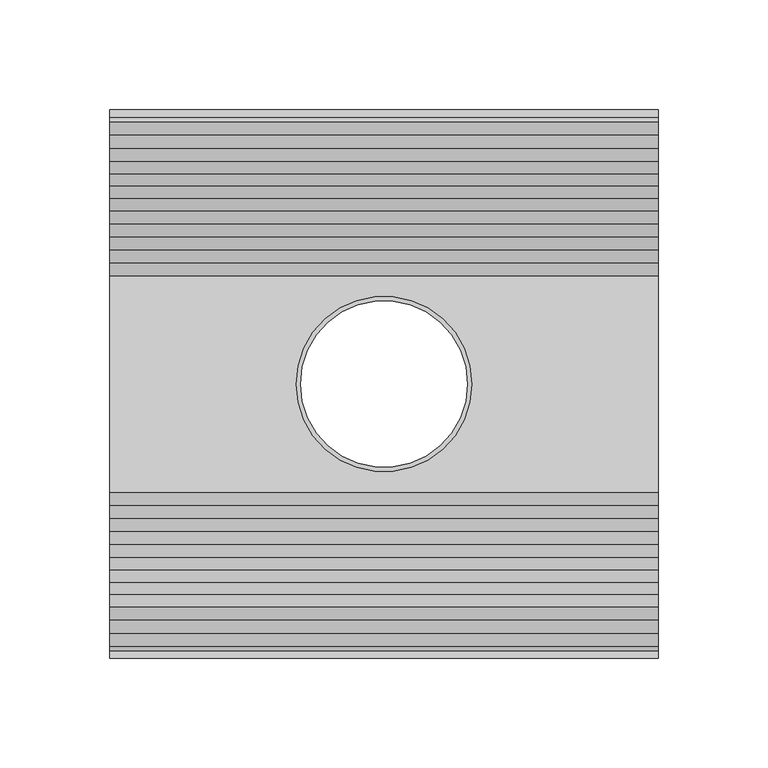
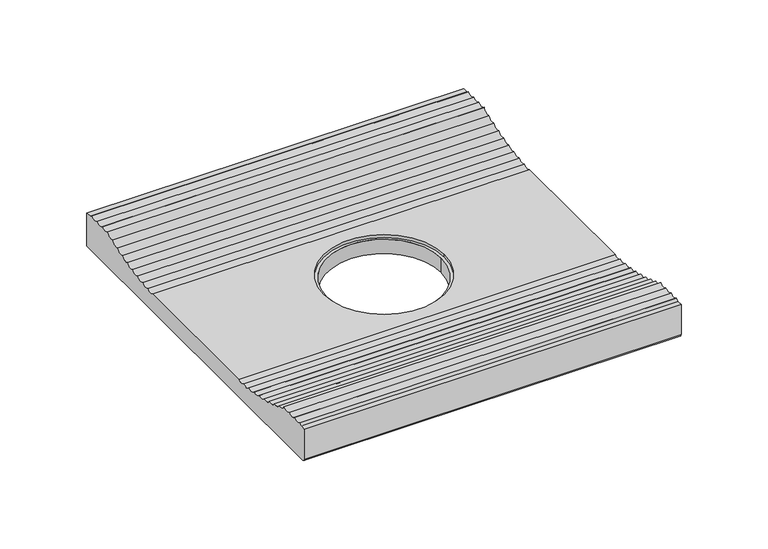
"""IFC4 building model written with IfcOpenShell, lengths in millimetres: proxy geometry, ROSA GRES_205 : Pieza 205_Aqua_Indubeige_Tecno."""

from ifc_helpers import new_model, si_unit, frame, origin, place, context, project, spatial, polyline, circle_curve, source, transform, mapped, element, save
from ifc_brep_helpers import plane_surface, cylinder_surface, revolved_surface, advanced_brep


def generic_models_5c6e7721(model_context):
    return source(origin(), model_context, "Body", "AdvancedBrep", [
        advanced_brep(
        [(250.0, 0.0, 22.8672484), (250.0, 0.0, 1.8), (250.0, 1.8, 0.0), (250.0, 250.0, 0.0), (250.0, 250.0, 22.8672484), (250.0, 246.5165615, 22.8672484), (250.0, 244.6066559, 24.1254722), (250.0, 238.5231465, 24.0443215), (250.0, 232.5161808, 24.0385354), (250.0, 226.4518445, 24.1126825), (250.0, 220.9070916, 21.702672), (250.0, 215.3259087, 19.6629784), (250.0, 209.593873, 17.7784107), (250.0, 203.853023, 16.2504407), (250.0, 197.9613895, 14.9241491), (250.0, 192.1240285, 13.8344915), (250.0, 186.1425933, 12.9927609), (250.0, 180.2419212, 12.3552884), (250.0, 174.3413989, 11.9299493), (250.0, 75.6586011, 11.9299493), (250.0, 69.7580788, 12.3552884), (250.0, 63.8574067, 12.9927609), (250.0, 57.8759715, 13.8344915), (250.0, 52.0386105, 14.9241491), (250.0, 46.146977, 16.2504407), (250.0, 40.406127, 17.7784107), (250.0, 34.6740913, 19.6629784), (250.0, 29.0929084, 21.702672), (250.0, 23.5481555, 24.1126825), (250.0, 17.4838192, 24.0385354), (250.0, 11.4768535, 24.0443215), (250.0, 5.3933441, 24.1254722), (250.0, 3.4834385, 22.8672484), (0.0, 0.0, 22.8672484), (0.0, 3.4834385, 22.8672484), (0.0, 5.3933441, 24.1254722), (0.0, 11.4768535, 24.0443215), (0.0, 17.4838192, 24.0385354), (0.0, 23.5481555, 24.1126825), (0.0, 29.0929084, 21.702672), (0.0, 34.6740913, 19.6629784), (0.0, 40.406127, 17.7784107), (0.0, 46.146977, 16.2504407), (0.0, 52.0386105, 14.9241491), (0.0, 57.8759715, 13.8344915), (0.0, 63.8574067, 12.9927609), (0.0, 69.7580788, 12.3552884), (0.0, 75.6586011, 11.9299493), (0.0, 174.3413989, 11.9299493), (0.0, 180.2419212, 12.3552884), (0.0, 186.1425933, 12.9927609), (0.0, 192.1240285, 13.8344915), (0.0, 197.9613895, 14.9241491), (0.0, 203.853023, 16.2504407), (0.0, 209.593873, 17.7784107), (0.0, 215.3259087, 19.6629784), (0.0, 220.9070916, 21.702672), (0.0, 226.4518445, 24.1126825), (0.0, 232.5161808, 24.0385354), (0.0, 238.5231465, 24.0443215), (0.0, 244.6066559, 24.1254722), (0.0, 246.5165615, 22.8672484), (0.0, 250.0, 22.8672484), (0.0, 250.0, 0.0), (0.0, 1.8, 0.0), (0.0, 0.0, 1.8), (163.0, 125.0, 9.9299493), (163.0, 125.0, 0.0), (87.0, 125.0, 0.0), (87.0, 125.0, 9.9299493), (85.0, 125.0, 9.9299493), (165.0, 125.0, 9.9299493), (85.0, 125.0, 11.9299493), (165.0, 125.0, 11.9299493)],
        [
            (0, 1),
            (1, 2, circle_curve(frame((250.0, 1.8, 1.8), z_axis=(1.0, 0.0, 0.0), x_axis=(0.0, -1.0, 0.0)), 1.8)),
            (2, 3),
            (3, 4),
            (4, 5),
            (5, 6, circle_curve(frame((250.0, 246.5165615, 24.9459193), z_axis=(-1.0, 0.0, 0.0), x_axis=(0.0, 1.0, 0.0)), 2.078671)),
            (6, 7, circle_curve(frame((250.0, 241.5227559, 27.2443435), z_axis=(-1.0, 0.0, 0.0), x_axis=(0.0, 1.0, 0.0)), 4.3860914)),
            (7, 8, circle_curve(frame((250.0, 235.5165615, 27.2619892), z_axis=(-1.0, 0.0, 0.0), x_axis=(0.0, 1.0, 0.0)), 4.4037415)),
            (8, 9, circle_curve(frame((250.0, 229.5227559, 27.2443435), z_axis=(-1.0, 0.0, 0.0), x_axis=(0.0, 1.0, 0.0)), 4.3860914)),
            (9, 10, circle_curve(frame((250.0, 222.4126485, 25.8222711), z_axis=(-1.0, 0.0, 0.0), x_axis=(0.0, 1.0, 0.0)), 4.3860914)),
            (10, 11, circle_curve(frame((250.0, 217.0089888, 23.7132919), z_axis=(-1.0, 0.0, 0.0), x_axis=(0.0, 1.0, 0.0)), 4.3860914)),
            (11, 12, circle_curve(frame((250.0, 211.4655295, 21.7451095), z_axis=(-1.0, 0.0, 0.0), x_axis=(0.0, 1.0, 0.0)), 4.3860914)),
            (12, 13, circle_curve(frame((250.0, 205.8934032, 20.1330489), z_axis=(-1.0, 0.0, 0.0), x_axis=(0.0, 1.0, 0.0)), 4.3860914)),
            (13, 14, circle_curve(frame((250.0, 200.2085503, 18.690854), z_axis=(-1.0, 0.0, 0.0), x_axis=(0.0, 1.0, 0.0)), 4.3860914)),
            (14, 15, circle_curve(frame((250.0, 194.4503067, 17.5528551), z_axis=(-1.0, 0.0, 0.0), x_axis=(0.0, 1.0, 0.0)), 4.3860914)),
            (15, 16, circle_curve(frame((250.0, 188.6900903, 16.563203), z_axis=(-1.0, 0.0, 0.0), x_axis=(0.0, 1.0, 0.0)), 4.3860914)),
            (16, 17, circle_curve(frame((250.0, 182.8453461, 15.8851576), z_axis=(-1.0, 0.0, 0.0), x_axis=(0.0, 1.0, 0.0)), 4.3860914)),
            (17, 18, circle_curve(frame((250.0, 177.0588098, 15.372837), z_axis=(-1.0, 0.0, 0.0), x_axis=(0.0, 1.0, 0.0)), 4.3860914)),
            (18, 19),
            (19, 20, circle_curve(frame((250.0, 72.9411902, 15.372837), z_axis=(-1.0, 0.0, 0.0), x_axis=(0.0, 1.0, 0.0)), 4.3860914)),
            (20, 21, circle_curve(frame((250.0, 67.1546539, 15.8851576), z_axis=(-1.0, 0.0, 0.0), x_axis=(0.0, 1.0, 0.0)), 4.3860914)),
            (21, 22, circle_curve(frame((250.0, 61.3099097, 16.563203), z_axis=(-1.0, 0.0, 0.0), x_axis=(0.0, 1.0, 0.0)), 4.3860914)),
            (22, 23, circle_curve(frame((250.0, 55.5496933, 17.5528551), z_axis=(-1.0, 0.0, 0.0), x_axis=(0.0, 1.0, 0.0)), 4.3860914)),
            (23, 24, circle_curve(frame((250.0, 49.7914497, 18.690854), z_axis=(-1.0, 0.0, 0.0), x_axis=(0.0, 1.0, 0.0)), 4.3860914)),
            (24, 25, circle_curve(frame((250.0, 44.1065968, 20.1330489), z_axis=(-1.0, 0.0, 0.0), x_axis=(0.0, 1.0, 0.0)), 4.3860914)),
            (25, 26, circle_curve(frame((250.0, 38.5344705, 21.7451095), z_axis=(-1.0, 0.0, 0.0), x_axis=(0.0, 1.0, 0.0)), 4.3860914)),
            (26, 27, circle_curve(frame((250.0, 32.9910112, 23.7132919), z_axis=(-1.0, 0.0, 0.0), x_axis=(0.0, 1.0, 0.0)), 4.3860914)),
            (27, 28, circle_curve(frame((250.0, 27.5873515, 25.8222711), z_axis=(-1.0, 0.0, 0.0), x_axis=(0.0, 1.0, 0.0)), 4.3860914)),
            (28, 29, circle_curve(frame((250.0, 20.4772441, 27.2443435), z_axis=(-1.0, 0.0, 0.0), x_axis=(0.0, 1.0, 0.0)), 4.3860914)),
            (29, 30, circle_curve(frame((250.0, 14.4834385, 27.2619892), z_axis=(-1.0, 0.0, 0.0), x_axis=(0.0, 1.0, 0.0)), 4.4037415)),
            (30, 31, circle_curve(frame((250.0, 8.4772441, 27.2443435), z_axis=(-1.0, 0.0, 0.0), x_axis=(0.0, 1.0, 0.0)), 4.3860914)),
            (31, 32, circle_curve(frame((250.0, 3.4834385, 24.9459193), z_axis=(-1.0, 0.0, 0.0), x_axis=(0.0, 1.0, 0.0)), 2.078671)),
            (32, 0),
            (33, 34),
            (34, 35, circle_curve(frame((0.0, 3.4834385, 24.9459193), z_axis=(1.0, 0.0, 0.0), x_axis=(0.0, 1.0, 0.0)), 2.078671)),
            (35, 36, circle_curve(frame((0.0, 8.4772441, 27.2443435), z_axis=(1.0, 0.0, 0.0), x_axis=(0.0, 1.0, 0.0)), 4.3860914)),
            (36, 37, circle_curve(frame((0.0, 14.4834385, 27.2619892), z_axis=(1.0, 0.0, 0.0), x_axis=(0.0, 1.0, 0.0)), 4.4037415)),
            (37, 38, circle_curve(frame((0.0, 20.4772441, 27.2443435), z_axis=(1.0, 0.0, 0.0), x_axis=(0.0, 1.0, 0.0)), 4.3860914)),
            (38, 39, circle_curve(frame((0.0, 27.5873515, 25.8222711), z_axis=(1.0, 0.0, 0.0), x_axis=(0.0, 1.0, 0.0)), 4.3860914)),
            (39, 40, circle_curve(frame((0.0, 32.9910112, 23.7132919), z_axis=(1.0, 0.0, 0.0), x_axis=(0.0, 1.0, 0.0)), 4.3860914)),
            (40, 41, circle_curve(frame((0.0, 38.5344705, 21.7451095), z_axis=(1.0, 0.0, 0.0), x_axis=(0.0, 1.0, 0.0)), 4.3860914)),
            (41, 42, circle_curve(frame((0.0, 44.1065968, 20.1330489), z_axis=(1.0, 0.0, 0.0), x_axis=(0.0, 1.0, 0.0)), 4.3860914)),
            (42, 43, circle_curve(frame((0.0, 49.7914497, 18.690854), z_axis=(1.0, 0.0, 0.0), x_axis=(0.0, 1.0, 0.0)), 4.3860914)),
            (43, 44, circle_curve(frame((0.0, 55.5496933, 17.5528551), z_axis=(1.0, 0.0, 0.0), x_axis=(0.0, 1.0, 0.0)), 4.3860914)),
            (44, 45, circle_curve(frame((0.0, 61.3099097, 16.563203), z_axis=(1.0, 0.0, 0.0), x_axis=(0.0, 1.0, 0.0)), 4.3860914)),
            (45, 46, circle_curve(frame((0.0, 67.1546539, 15.8851576), z_axis=(1.0, 0.0, 0.0), x_axis=(0.0, 1.0, 0.0)), 4.3860914)),
            (46, 47, circle_curve(frame((0.0, 72.9411902, 15.372837), z_axis=(1.0, 0.0, 0.0), x_axis=(0.0, 1.0, 0.0)), 4.3860914)),
            (47, 48),
            (48, 49, circle_curve(frame((0.0, 177.0588098, 15.372837), z_axis=(1.0, 0.0, 0.0), x_axis=(0.0, 1.0, 0.0)), 4.3860914)),
            (49, 50, circle_curve(frame((0.0, 182.8453461, 15.8851576), z_axis=(1.0, 0.0, 0.0), x_axis=(0.0, 1.0, 0.0)), 4.3860914)),
            (50, 51, circle_curve(frame((0.0, 188.6900903, 16.563203), z_axis=(1.0, 0.0, 0.0), x_axis=(0.0, 1.0, 0.0)), 4.3860914)),
            (51, 52, circle_curve(frame((0.0, 194.4503067, 17.5528551), z_axis=(1.0, 0.0, 0.0), x_axis=(0.0, 1.0, 0.0)), 4.3860914)),
            (52, 53, circle_curve(frame((0.0, 200.2085503, 18.690854), z_axis=(1.0, 0.0, 0.0), x_axis=(0.0, 1.0, 0.0)), 4.3860914)),
            (53, 54, circle_curve(frame((0.0, 205.8934032, 20.1330489), z_axis=(1.0, 0.0, 0.0), x_axis=(0.0, 1.0, 0.0)), 4.3860914)),
            (54, 55, circle_curve(frame((0.0, 211.4655295, 21.7451095), z_axis=(1.0, 0.0, 0.0), x_axis=(0.0, 1.0, 0.0)), 4.3860914)),
            (55, 56, circle_curve(frame((0.0, 217.0089888, 23.7132919), z_axis=(1.0, 0.0, 0.0), x_axis=(0.0, 1.0, 0.0)), 4.3860914)),
            (56, 57, circle_curve(frame((0.0, 222.4126485, 25.8222711), z_axis=(1.0, 0.0, 0.0), x_axis=(0.0, 1.0, 0.0)), 4.3860914)),
            (57, 58, circle_curve(frame((0.0, 229.5227559, 27.2443435), z_axis=(1.0, 0.0, 0.0), x_axis=(0.0, 1.0, 0.0)), 4.3860914)),
            (58, 59, circle_curve(frame((0.0, 235.5165615, 27.2619892), z_axis=(1.0, 0.0, 0.0), x_axis=(0.0, 1.0, 0.0)), 4.4037415)),
            (59, 60, circle_curve(frame((0.0, 241.5227559, 27.2443435), z_axis=(1.0, 0.0, 0.0), x_axis=(0.0, 1.0, 0.0)), 4.3860914)),
            (60, 61, circle_curve(frame((0.0, 246.5165615, 24.9459193), z_axis=(1.0, 0.0, 0.0), x_axis=(0.0, 1.0, 0.0)), 2.078671)),
            (61, 62),
            (62, 63),
            (63, 64),
            (64, 65, circle_curve(frame((0.0, 1.8, 1.8), z_axis=(-1.0, 0.0, 0.0), x_axis=(0.0, -1.0, 0.0)), 1.8)),
            (65, 33),
            (66, 67),
            (67, 68, circle_curve(frame((125.0, 125.0, 0.0), z_axis=(0.0, 0.0, -1.0), x_axis=(1.0, 0.0, 0.0)), 38.0)),
            (68, 69),
            (69, 66, circle_curve(frame((125.0, 125.0, 9.9299493), z_axis=(0.0, 0.0, 1.0), x_axis=(1.0, 0.0, 0.0)), 38.0)),
            (66, 69, circle_curve(frame((125.0, 125.0, 9.9299493), z_axis=(0.0, 0.0, 1.0), x_axis=(1.0, 0.0, 0.0)), 38.0)),
            (68, 67, circle_curve(frame((125.0, 125.0, 0.0), z_axis=(0.0, 0.0, -1.0), x_axis=(1.0, 0.0, 0.0)), 38.0)),
            (70, 71, circle_curve(frame((125.0, 125.0, 9.9299493), z_axis=(0.0, 0.0, 1.0), x_axis=(1.0, 0.0, 0.0)), 40.0)),
            (71, 70, circle_curve(frame((125.0, 125.0, 9.9299493), z_axis=(0.0, 0.0, 1.0), x_axis=(1.0, 0.0, 0.0)), 40.0)),
            (70, 72),
            (72, 73, circle_curve(frame((125.0, 125.0, 11.9299493), z_axis=(0.0, 0.0, 1.0), x_axis=(1.0, 0.0, 0.0)), 40.0)),
            (73, 71),
            (73, 72, circle_curve(frame((125.0, 125.0, 11.9299493), z_axis=(0.0, 0.0, 1.0), x_axis=(1.0, 0.0, 0.0)), 40.0)),
            (0, 33),
            (65, 1),
            (64, 2),
            (63, 3),
            (62, 4),
            (61, 5),
            (60, 6),
            (59, 7),
            (58, 8),
            (57, 9),
            (56, 10),
            (55, 11),
            (54, 12),
            (53, 13),
            (52, 14),
            (51, 15),
            (50, 16),
            (49, 17),
            (48, 18),
            (47, 19),
            (46, 20),
            (45, 21),
            (44, 22),
            (43, 23),
            (42, 24),
            (41, 25),
            (40, 26),
            (39, 27),
            (38, 28),
            (37, 29),
            (36, 30),
            (35, 31),
            (34, 32),
        ],
        [
            plane_surface(frame((250.0, 0.0, 0.0), z_axis=(1.0, 0.0, 0.0), x_axis=(0.0, 0.0, 1.0))),
            plane_surface(frame((0.0, 0.0, 0.0), z_axis=(-1.0, 0.0, 0.0), x_axis=(0.0, 0.0, 1.0))),
            revolved_surface(polyline([(163.0, 125.0, 9.9299493), (163.0, 125.0, 0.0)]), (125.0, 125.0, 0.0), (0.0, 0.0, 1.0)),
            plane_surface(frame((165.0, 125.0, 9.9299493), z_axis=(0.0, 0.0, 1.0), x_axis=(0.0, -1.0, 0.0))),
            revolved_surface(polyline([(165.0, 125.0, 11.9299493), (165.0, 125.0, 9.9299493)]), (125.0, 125.0, 9.9299493), (0.0, 0.0, 1.0)),
            plane_surface(frame((250.0, 0.0, 22.8672484), z_axis=(0.0, -1.0, 0.0), x_axis=(-1.0, 0.0, 0.0))),
            cylinder_surface(frame((250.0, 1.8, 1.8), z_axis=(1.0, 0.0, 0.0), x_axis=(0.0, -1.0, 0.0)), 1.8),
            plane_surface(frame((250.0, 1.8, 0.0), z_axis=(0.0, 0.0, -1.0), x_axis=(-1.0, 0.0, 0.0))),
            plane_surface(frame((250.0, 250.0, 0.0), z_axis=(0.0, 1.0, 0.0), x_axis=(-1.0, 0.0, 0.0))),
            plane_surface(frame((250.0, 250.0, 22.8672484), z_axis=(0.0, 0.0, 1.0), x_axis=(-1.0, 0.0, 0.0))),
            revolved_surface(polyline([(0.0, 248.5952325, 24.9459193), (250.0, 248.5952325, 24.9459193)]), (250.0, 246.5165615, 24.9459193), (-1.0, 0.0, 0.0)),
            revolved_surface(polyline([(0.0, 245.9088473, 27.2443435), (250.0, 245.9088473, 27.2443435)]), (250.0, 241.5227559, 27.2443435), (-1.0, 0.0, 0.0)),
            revolved_surface(polyline([(0.0, 239.920303, 27.2619892), (250.0, 239.920303, 27.2619892)]), (250.0, 235.5165615, 27.2619892), (-1.0, 0.0, 0.0)),
            revolved_surface(polyline([(0.0, 233.9088473, 27.2443435), (250.0, 233.9088473, 27.2443435)]), (250.0, 229.5227559, 27.2443435), (-1.0, 0.0, 0.0)),
            revolved_surface(polyline([(0.0, 226.7987399, 25.8222711), (250.0, 226.7987399, 25.8222711)]), (250.0, 222.4126485, 25.8222711), (-1.0, 0.0, 0.0)),
            revolved_surface(polyline([(0.0, 221.3950802, 23.7132919), (250.0, 221.3950802, 23.7132919)]), (250.0, 217.0089888, 23.7132919), (-1.0, 0.0, 0.0)),
            revolved_surface(polyline([(0.0, 215.8516209, 21.7451095), (250.0, 215.8516209, 21.7451095)]), (250.0, 211.4655295, 21.7451095), (-1.0, 0.0, 0.0)),
            revolved_surface(polyline([(0.0, 210.2794946, 20.1330489), (250.0, 210.2794946, 20.1330489)]), (250.0, 205.8934032, 20.1330489), (-1.0, 0.0, 0.0)),
            revolved_surface(polyline([(0.0, 204.5946417, 18.690854), (250.0, 204.5946417, 18.690854)]), (250.0, 200.2085503, 18.690854), (-1.0, 0.0, 0.0)),
            revolved_surface(polyline([(0.0, 198.8363981, 17.5528551), (250.0, 198.8363981, 17.5528551)]), (250.0, 194.4503067, 17.5528551), (-1.0, 0.0, 0.0)),
            revolved_surface(polyline([(0.0, 193.0761817, 16.563203), (250.0, 193.0761817, 16.563203)]), (250.0, 188.6900903, 16.563203), (-1.0, 0.0, 0.0)),
            revolved_surface(polyline([(0.0, 187.2314375, 15.8851576), (250.0, 187.2314375, 15.8851576)]), (250.0, 182.8453461, 15.8851576), (-1.0, 0.0, 0.0)),
            revolved_surface(polyline([(0.0, 181.4449012, 15.372837), (250.0, 181.4449012, 15.372837)]), (250.0, 177.0588098, 15.372837), (-1.0, 0.0, 0.0)),
            plane_surface(frame((250.0, 174.3413989, 11.9299493), z_axis=(0.0, 0.0, 1.0), x_axis=(-1.0, 0.0, 0.0))),
            revolved_surface(polyline([(0.0, 77.32728159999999, 15.372837), (250.0, 77.32728159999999, 15.372837)]), (250.0, 72.9411902, 15.372837), (-1.0, 0.0, 0.0)),
            revolved_surface(polyline([(0.0, 71.5407453, 15.8851576), (250.0, 71.5407453, 15.8851576)]), (250.0, 67.1546539, 15.8851576), (-1.0, 0.0, 0.0)),
            revolved_surface(polyline([(0.0, 65.6960011, 16.563203), (250.0, 65.6960011, 16.563203)]), (250.0, 61.3099097, 16.563203), (-1.0, 0.0, 0.0)),
            revolved_surface(polyline([(0.0, 59.9357847, 17.5528551), (250.0, 59.9357847, 17.5528551)]), (250.0, 55.5496933, 17.5528551), (-1.0, 0.0, 0.0)),
            revolved_surface(polyline([(0.0, 54.1775411, 18.690854), (250.0, 54.1775411, 18.690854)]), (250.0, 49.7914497, 18.690854), (-1.0, 0.0, 0.0)),
            revolved_surface(polyline([(0.0, 48.492688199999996, 20.1330489), (250.0, 48.492688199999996, 20.1330489)]), (250.0, 44.1065968, 20.1330489), (-1.0, 0.0, 0.0)),
            revolved_surface(polyline([(0.0, 42.920561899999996, 21.7451095), (250.0, 42.920561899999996, 21.7451095)]), (250.0, 38.5344705, 21.7451095), (-1.0, 0.0, 0.0)),
            revolved_surface(polyline([(0.0, 37.3771026, 23.7132919), (250.0, 37.3771026, 23.7132919)]), (250.0, 32.9910112, 23.7132919), (-1.0, 0.0, 0.0)),
            revolved_surface(polyline([(0.0, 31.973442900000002, 25.8222711), (250.0, 31.973442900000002, 25.8222711)]), (250.0, 27.5873515, 25.8222711), (-1.0, 0.0, 0.0)),
            revolved_surface(polyline([(0.0, 24.863335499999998, 27.2443435), (250.0, 24.863335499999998, 27.2443435)]), (250.0, 20.4772441, 27.2443435), (-1.0, 0.0, 0.0)),
            revolved_surface(polyline([(0.0, 18.88718, 27.2619892), (250.0, 18.88718, 27.2619892)]), (250.0, 14.4834385, 27.2619892), (-1.0, 0.0, 0.0)),
            revolved_surface(polyline([(0.0, 12.8633355, 27.2443435), (250.0, 12.8633355, 27.2443435)]), (250.0, 8.4772441, 27.2443435), (-1.0, 0.0, 0.0)),
            revolved_surface(polyline([(0.0, 5.5621095, 24.9459193), (250.0, 5.5621095, 24.9459193)]), (250.0, 3.4834385, 24.9459193), (-1.0, 0.0, 0.0)),
            plane_surface(frame((250.0, 3.4834385, 22.8672484), z_axis=(0.0, -4.293775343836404e-12, 1.0), x_axis=(-1.0, 0.0, 0.0))),
        ],
        [
            (0, [[1, 2, 3, 4, 5, 6, 7, 8, 9, 10, 11, 12, 13, 14, 15, 16, 17, 18, 19, 20, 21, 22, 23, 24, 25, 26, 27, 28, 29, 30, 31, 32, 33]]),
            (1, [[34, 35, 36, 37, 38, 39, 40, 41, 42, 43, 44, 45, 46, 47, 48, 49, 50, 51, 52, 53, 54, 55, 56, 57, 58, 59, 60, 61, 62, 63, 64, 65, 66]]),
            (2, [[67, 68, 69, 70]]),
            (2, [[-67, 71, -69, 72]]),
            (3, [[73, 74], [-70, -71]]),
            (4, [[-73, 75, 76, 77]]),
            (4, [[-74, -77, 78, -75]]),
            (5, [[-1, 79, -66, 80]]),
            (6, [[-2, -80, -65, 81]]),
            (7, [[-3, -81, -64, 82], [-68, -72]]),
            (8, [[-4, -82, -63, 83]]),
            (9, [[-5, -83, -62, 84]]),
            (10, [[-6, -84, -61, 85]]),
            (11, [[-7, -85, -60, 86]]),
            (12, [[-8, -86, -59, 87]]),
            (13, [[-9, -87, -58, 88]]),
            (14, [[-10, -88, -57, 89]]),
            (15, [[-11, -89, -56, 90]]),
            (16, [[-12, -90, -55, 91]]),
            (17, [[-13, -91, -54, 92]]),
            (18, [[-14, -92, -53, 93]]),
            (19, [[-15, -93, -52, 94]]),
            (20, [[-16, -94, -51, 95]]),
            (21, [[-17, -95, -50, 96]]),
            (22, [[-18, -96, -49, 97]]),
            (23, [[-19, -97, -48, 98], [-76, -78]]),
            (24, [[-20, -98, -47, 99]]),
            (25, [[-21, -99, -46, 100]]),
            (26, [[-22, -100, -45, 101]]),
            (27, [[-23, -101, -44, 102]]),
            (28, [[-24, -102, -43, 103]]),
            (29, [[-25, -103, -42, 104]]),
            (30, [[-26, -104, -41, 105]]),
            (31, [[-27, -105, -40, 106]]),
            (32, [[-28, -106, -39, 107]]),
            (33, [[-29, -107, -38, 108]]),
            (34, [[-30, -108, -37, 109]]),
            (35, [[-31, -109, -36, 110]]),
            (36, [[-32, -110, -35, 111]]),
            (37, [[-33, -111, -34, -79]]),
        ],
    ),
    ])


if __name__ == "__main__":
    model = new_model("IFC4")
    model_context = context("Model", 3, world=origin())
    ifc_project = project(units=[si_unit("LENGTHUNIT", "METRE", prefix="MILLI")], contexts=[model_context])
    site = spatial("IfcSite", under=ifc_project)
    building = spatial("IfcBuilding", under=site)
    placement = place(None, origin())
    generic_models_shape = generic_models_5c6e7721(model_context)
    element("IfcBuildingElementProxy", 1, Name="ROSA GRES_205 : Pieza 205_Aqua_Indubeige_Tecno", ObjectType="ROSA GRES_205 : Pieza 205_Aqua_Indubeige_Tecno", at=placement, inside=building, context=model_context, shape_type="MappedRepresentation", body=[
        mapped(generic_models_shape, transform((0.0, 0.0, 0.0), x_axis=(1.0, 0.0, 0.0), y_axis=(0.0, 1.0, 0.0), z_axis=(0.0, 0.0, 1.0))),
    ])
    save(model, "model.ifc")
